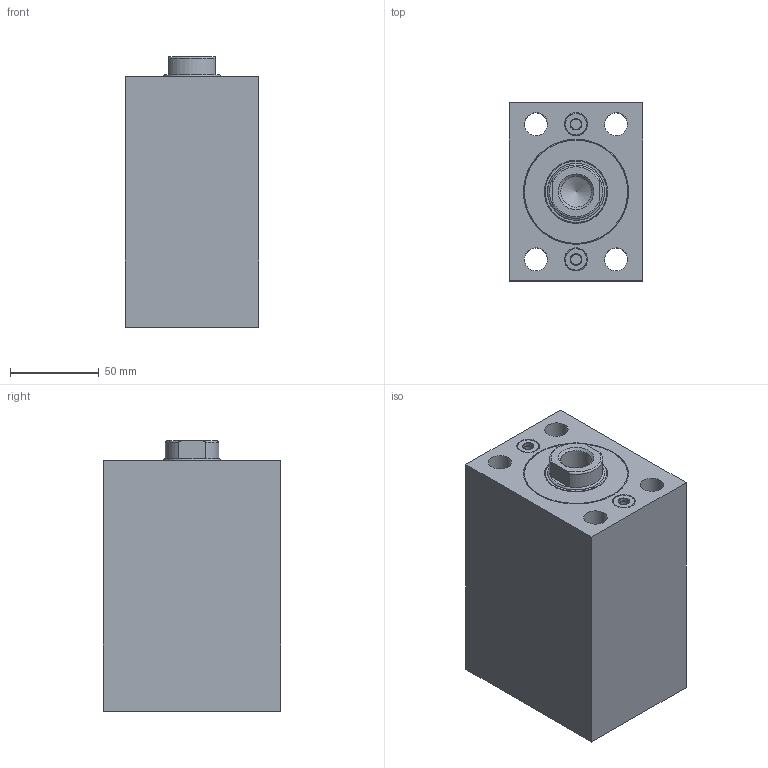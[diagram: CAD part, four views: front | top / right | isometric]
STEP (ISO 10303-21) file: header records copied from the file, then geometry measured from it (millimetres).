
FILE_DESCRIPTION( ( 'STEP AP203' ), '1' );
FILE_NAME( 'C:/Users/SAYKO.ltd/Desktop/SBZ100/07/SBZ100-50/SBZ100.50__FORM_07_STROKE_55__H2_58_POS_0_.stp', ' ', ( ' ' ), ( ' ' ), 'PSStep 15.0.47', 'PARTsolutions', ' ' );
FILE_SCHEMA( ( 'CONFIG_CONTROL_DESIGN' ) );
Length unit declared in the file: millimetre
Products named in the file (5): SBZ100.50  FORM=07 STROKE=55 (H2=58 POS=0); HI_SBZ10050  FORM=07 STROKE=55 H2=58 -C; HI_SBZ10050  FORM=07 STROKE=55-R; HI_SBZ100.50-C; HI_SBZ100.50-S
Assembly tree (4 placements, depth 2):
  SBZ100.50  FORM=07 STROKE=55 (H2=58 POS=0)
    HI_SBZ10050  FORM=07 STROKE=55 H2=58 -C
    HI_SBZ10050  FORM=07 STROKE=55-R
    HI_SBZ100.50-C
    HI_SBZ100.50-S
Bounding box: 75 x 100 x 152 mm (x, y, z)
Volume: 904730.5 mm3; surface area: 149732.7 mm2
Topology: 4 solids, 4 shells, 74 faces, 136 edges, 87 vertices
Faces by surface type: plane 33, cylinder 28, cone 10, torus 3
Full cylindrical faces by diameter (mm): 6 x4, 13 x6, 17.294 x1, 20 x4, 32 x4, 35.5 x1, 40 x2, 50 x2, 59 x2
Entity records: 4047 total; most frequent: CARTESIAN_POINT 2717, ORIENTED_EDGE 188, DIRECTION 178, EDGE_LOOP 140, FACE_OUTER_BOUND 101, EDGE_CURVE 94, VERTEX_POINT 83, AXIS2_PLACEMENT_3D 81
